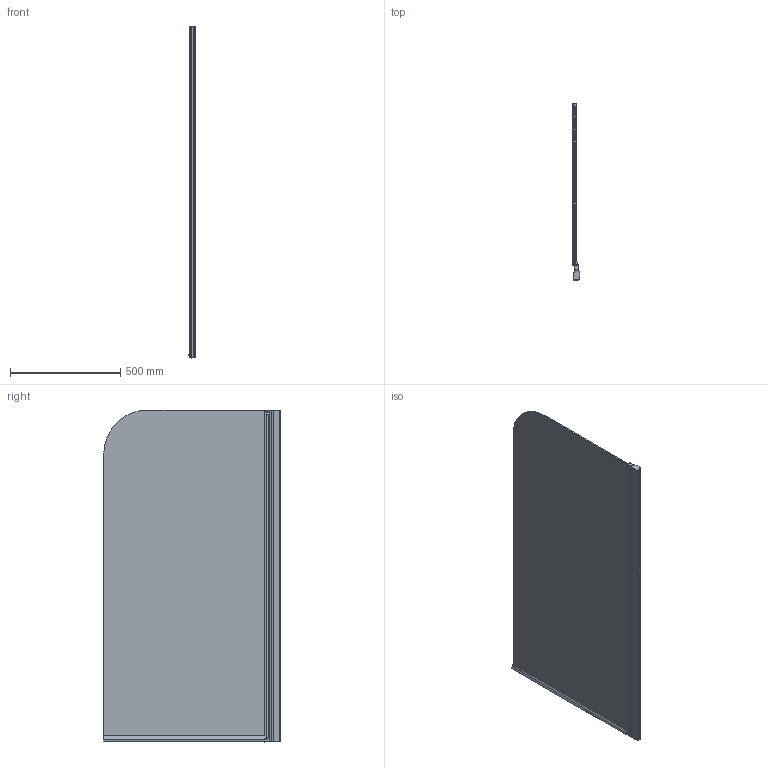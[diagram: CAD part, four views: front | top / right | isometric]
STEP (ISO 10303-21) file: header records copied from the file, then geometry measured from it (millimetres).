
FILE_DESCRIPTION(/* description */ (''),/* implementation_level */ '2;1');
FILE_NAME(/* name */ 'E:\Работа\Сергей\Душевые кабинки\! Работа\Шторки\LUX PEARL GV-601\LUX PEARL GV-601 левая модель\LUX PEARL GV-601 ЛЕВАЯ-3D.stp',/* time_stamp */ '2018-04-06T21:00:27+03:00',/* author */ ('PC'),/* organization */ (''),/* preprocessor_version */ 'ST-DEVELOPER v15.2',/* originating_system */ 'Autodesk Inventor 2014',/* authorisation */ '');
FILE_SCHEMA (('AUTOMOTIVE_DESIGN { 1 0 10303 214 3 1 1 }'));
Length unit declared in the file: millimetre
Products named in the file (1): LUX PEARL GV-601 ЛЕВАЯ-3D
Bounding box: 35.82 x 800 x 1504.24 mm (x, y, z)
Volume: 9011915 mm3; surface area: 2672600.1 mm2
Topology: 1 solids, 1 shells, 206 faces, 607 edges, 399 vertices
Faces by surface type: plane 138, cylinder 63, cone 5
Full cylindrical faces by diameter (mm): 5 x1, 7.8 x1, 19 x1
Entity records: 7165 total; most frequent: CARTESIAN_POINT 1278, ORIENTED_EDGE 1204, DIRECTION 1161, EDGE_CURVE 602, LINE 437, VECTOR 437, VERTEX_POINT 398, AXIS2_PLACEMENT_3D 362
